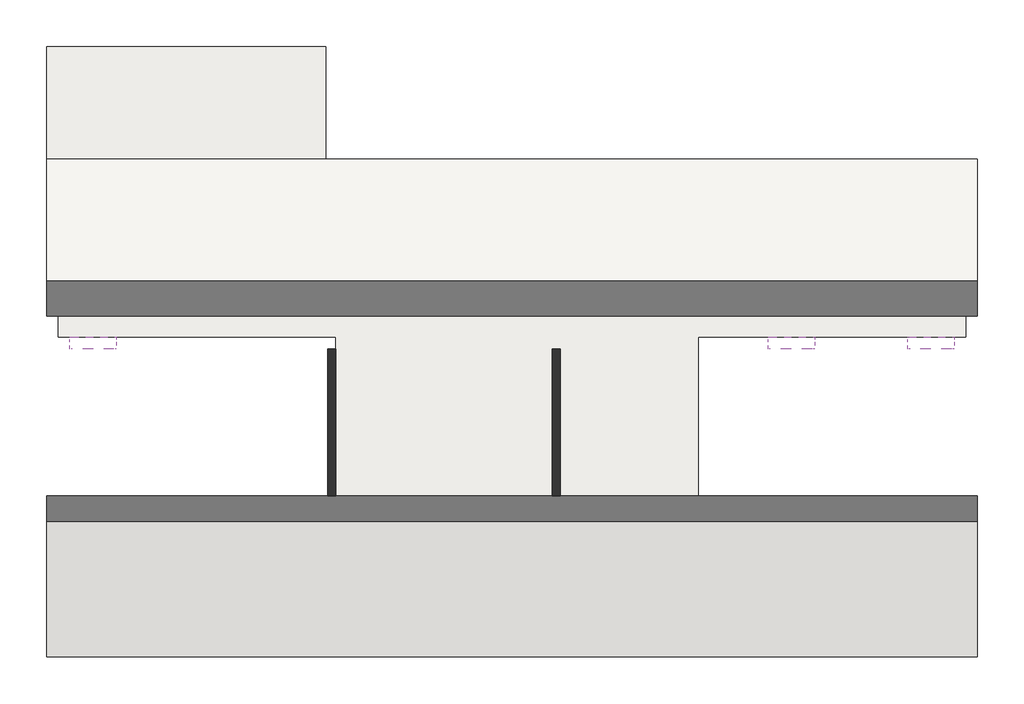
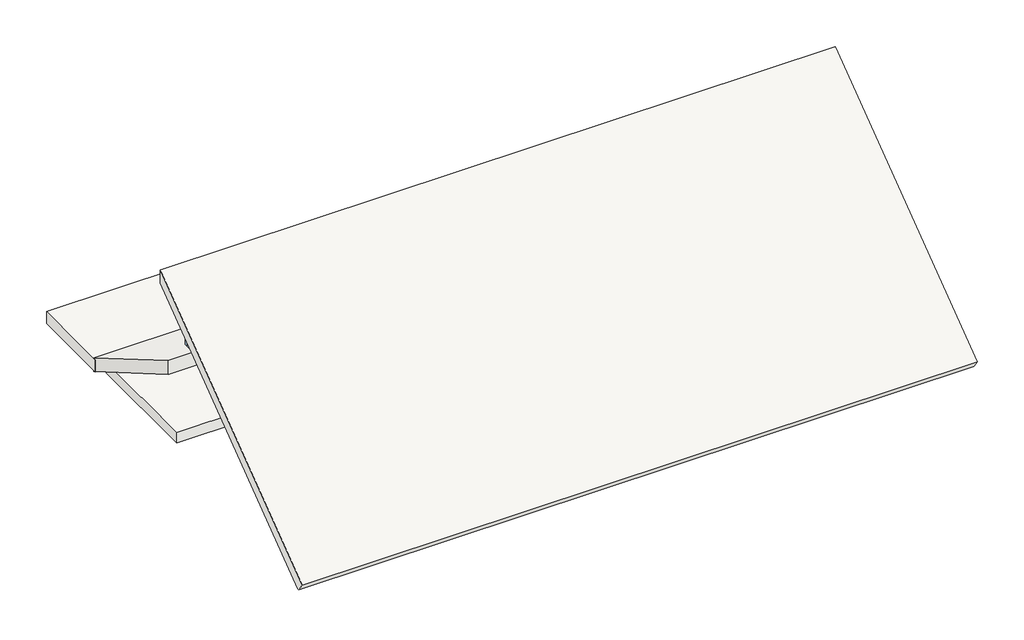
# One storey: 3 roofs, 3 walls, 3 windows, 1 slab.
"""IFC4 building model written with IfcOpenShell, lengths in millimetres."""

from ifc_helpers import new_model, si_unit, frame, origin, place, context, project, spatial, polyline, outline, extrude, faceted_brep, transform, mapped, element, save
from components import window_aff1bc2a

model = new_model("IFC4")

# Units and contexts
model_context = context("Model", 3, world=origin())
ifc_project = project(units=[si_unit("LENGTHUNIT", "METRE", prefix="MILLI")], contexts=[model_context])

# Site, building, storey
site = spatial("IfcSite", under=ifc_project)
building = spatial("IfcBuilding", under=site)
storey = spatial("IfcBuildingStorey", under=building, Name="T.O. Plate", Elevation=2438.4)

# Roofs
placement = place(None, origin())
element("IfcRoof", 1, ObjectType="Generic - 8\"", at=placement, inside=storey, context=model_context, shape_type="SweptSolid", body=[
    extrude(outline(polyline([(-3967.2021683, 5391.15), (-8269.9621683, 2164.08), (-8301.7121683, 2164.08), (-8412.2021683, 2311.4), (-3967.2021683, 5645.15), (-3967.2021683, 5391.15)])), frame((-10872.8710901, 0.0, 0.0), z_axis=(1.0, 0.0, 0.0), x_axis=(0.0, 1.0, 0.0)), (0.0, 0.0, 1.0), 12192.0),
])
element("IfcRoof", 2, ObjectType="Generic - 9\"", at=placement, inside=storey, context=model_context, shape_type="SweptSolid", body=[
    extrude(outline(polyline([(-4221.2021683, 4066.1843913), (-1884.4021683, 2703.051058), (-1884.4021683, 2438.4), (-4221.2021683, 3801.5333333), (-4221.2021683, 4066.1843913)])), frame((-10872.8710901, 0.0, 0.0), z_axis=(1.0, 0.0, 0.0), x_axis=(0.0, 1.0, 0.0)), (0.0, 0.0, 1.0), 12192.0),
])
element("IfcRoof", 3, ObjectType="Generic - 9\"", at=placement, inside=storey, context=model_context, shape_type="SweptSolid", body=[
    extrude(outline(polyline([(-10872.8710901, -411.2021683), (-7215.2710901, -411.2021683), (-7215.2710901, -1935.2021683), (-10872.8710901, -1935.2021683), (-10872.8710901, -411.2021683)])), frame((0.0, 0.0, 2466.975), z_axis=(0.0, 0.0, 1.0), x_axis=(1.0, 0.0, 0.0)), (0.0, 0.0, 1.0), 228.6),
])

# Slab
element("IfcSlab", 4, ObjectType="Generic - 8\"", at=placement, inside=storey, context=model_context, shape_type="SweptSolid", body=[
    extrude(outline(polyline([(-7367.6710901, -2697.2021683), (1166.7289099, -2697.2021683), (1166.7289099, -4221.2021683), (-2338.4710901, -4221.2021683), (-2338.4710901, -6812.0021683), (-7088.2710901, -6812.0021683), (-7088.2710901, -4221.2021683), (-10720.4710901, -4221.2021683), (-10720.4710901, -2011.4021683), (-7367.6710901, -2011.4021683), (-7367.6710901, -2697.2021683)])), frame((0.0, 0.0, 2438.4), z_axis=(0.0, 0.0, 1.0), x_axis=(1.0, 0.0, 0.0)), (0.0, 0.0, 1.0), 203.2),
])

# Walls
element("IfcWall", 5, ObjectType="Generic - 4\"", at=placement, inside=storey, context=model_context, shape_type="Brep", body=[
    faceted_brep([(-7189.8710901, -4373.6021683, 2425.7), (-7189.8710901, -6913.6021683, 2425.7), (-7189.8710901, -6913.6021683, 3181.35), (-7189.8710901, -4373.6021683, 5086.35), (-7088.2710901, -4373.6021683, 2425.7), (-7088.2710901, -4373.6021683, 5086.35), (-7088.2710901, -6812.0021683, 3257.55), (-7088.2710901, -6913.6021683, 3181.35), (-7088.2710901, -6913.6021683, 2425.7), (-7088.2710901, -6812.0021683, 2425.7)], [[[0, 1, 2, 3]], [[4, 5, 6, 7, 8, 9]], [[1, 0, 4, 9, 8]], [[0, 3, 5, 4]], [[2, 1, 8, 7]], [[3, 2, 7, 6, 5]]]),
])
element("IfcWall", 6, ObjectType="Generic - 4\"", at=placement, inside=storey, context=model_context, shape_type="Brep", body=[
    faceted_brep([(-7088.2710901, -6913.6021683, 2425.7), (-2338.4710901, -6913.6021683, 2425.7), (-2338.4710901, -6913.6021683, 3181.35), (-7088.2710901, -6913.6021683, 3181.35), (-7088.2710901, -6812.0021683, 2425.7), (-7088.2710901, -6812.0021683, 3257.55), (-4249.8210901, -6812.0021683, 3257.55), (-4148.2210901, -6812.0021683, 3257.55), (-2338.4710901, -6812.0021683, 3257.55), (-2338.4710901, -6812.0021683, 2425.7), (-4148.2210901, -6812.0021683, 2425.7), (-4249.8210901, -6812.0021683, 2425.7)], [[[0, 1, 2, 3]], [[4, 5, 6, 7, 8, 9, 10, 11]], [[1, 0, 4, 11, 10, 9]], [[0, 3, 5, 4]], [[3, 2, 8, 7, 6, 5]], [[2, 1, 9, 8]]]),
])
element("IfcWall", 7, ObjectType="Generic - 4\"", at=placement, inside=storey, context=model_context, shape_type="SweptSolid", body=[
    extrude(outline(polyline([(-6812.0021683, 2425.7), (-6812.0021683, 3257.55), (-4373.6021683, 5086.35), (-4373.6021683, 2425.7), (-6812.0021683, 2425.7)])), frame((-4249.8210901, 0.0, 0.0), z_axis=(1.0, 0.0, 0.0), x_axis=(0.0, 1.0, 0.0)), (0.0, 0.0, 1.0), 101.6),
])

# Windows
window_shape = window_aff1bc2a(model_context)
element("IfcWindow", 8, ObjectType="Fixed : 24\" x 24\"", at=placement, inside=storey, context=model_context, shape_type="MappedRepresentation", body=[
    mapped(window_shape, transform((-10225.1710901, -4297.4021683, 3352.8), x_axis=(1.0, 0.0, 0.0), y_axis=(0.0, 1.0, 0.0), z_axis=(0.0, 0.0, 1.0))),
])
element("IfcWindow", 9, ObjectType="Fixed : 24\" x 24\"", at=placement, inside=storey, context=model_context, shape_type="MappedRepresentation", body=[
    mapped(window_shape, transform((-1081.1710901, -4297.4021683, 3352.8), x_axis=(1.0, 0.0, 0.0), y_axis=(0.0, 1.0, 0.0), z_axis=(0.0, 0.0, 1.0))),
])
element("IfcWindow", 10, ObjectType="Fixed : 24\" x 24\"", at=placement, inside=storey, context=model_context, shape_type="MappedRepresentation", body=[
    mapped(window_shape, transform((747.6289099, -4297.4021683, 3352.8), x_axis=(1.0, 0.0, 0.0), y_axis=(0.0, 1.0, 0.0), z_axis=(0.0, 0.0, 1.0))),
])

save(model, "model.ifc")
